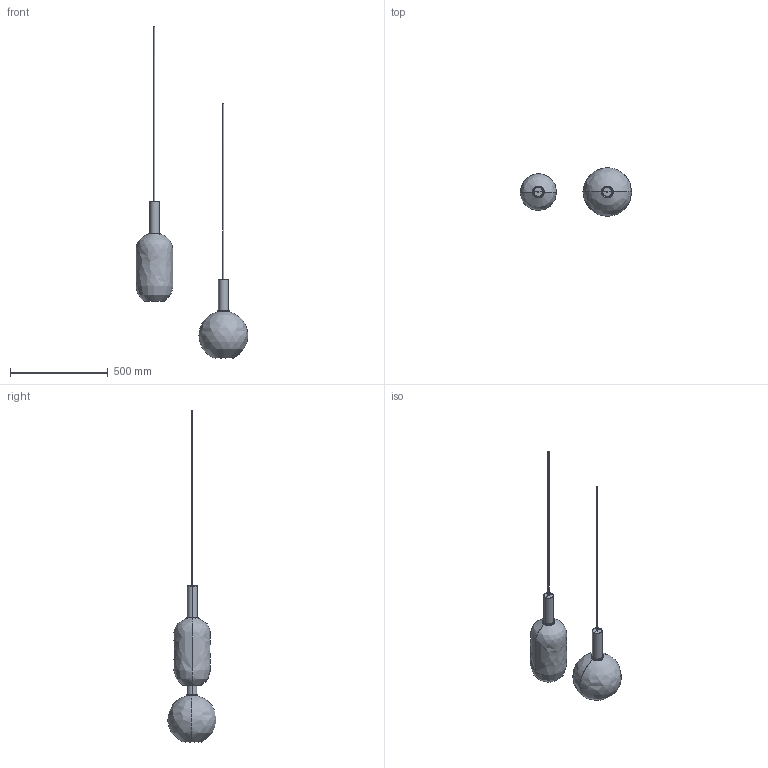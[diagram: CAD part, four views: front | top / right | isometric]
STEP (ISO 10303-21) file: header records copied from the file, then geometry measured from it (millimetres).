
FILE_DESCRIPTION(/* description */ (''),/* implementation_level */ '2;1');
FILE_NAME(/* name */ 'OB2R2K~R',/* time_stamp */ '2018-04-09T18:27:27+02:00',/* author */ (''),/* organization */ (''),/* preprocessor_version */ 'ST-DEVELOPER v15',/* originating_system */ '',/* authorisation */ '');
FILE_SCHEMA (('AUTOMOTIVE_DESIGN'));
Length unit declared in the file: millimetre
Products named in the file (1): Document
Bounding box: 570.68 x 249.97 x 1697.63 mm (x, y, z)
Volume: 1011220.5 mm3; surface area: 916847.2 mm2
Topology: 7 solids, 13 shells, 76 faces, 160 edges, 92 vertices
Faces by surface type: bspline 76
Entity records: 4399 total; most frequent: CARTESIAN_POINT 2471, B_SPLINE_CURVE_WITH_KNOTS 318, ORIENTED_EDGE 296, PCURVE 296, DEFINITIONAL_REPRESENTATION 296, SURFACE_CURVE 160, EDGE_CURVE 160, VERTEX_POINT 92
